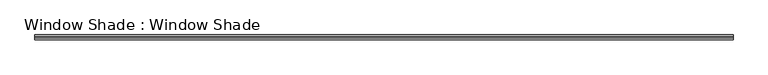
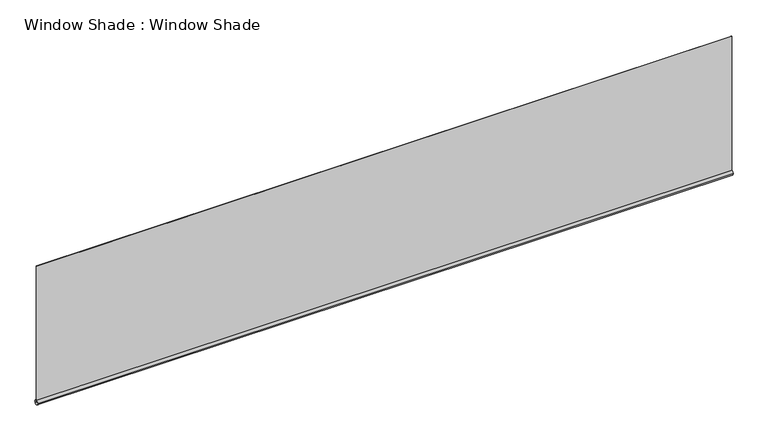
"""IFC4 building model written with IfcOpenShell, lengths in millimetres: furniture geometry, Window Shade : Window Shade."""

from ifc_helpers import new_model, si_unit, point, frame, frame_2d, origin, place, context, project, spatial, polyline, circle_curve, trimmed, segment, composite_curve, outline, extrude, source, transform, mapped, element, save


def window_shade_window_shade_ff6f2619(model_context):
    return source(origin(), model_context, "Body", "SweptSolid", [
        extrude(outline(polyline([(1865.8406718, 1.5875), (1865.8406718, -1.5875), (-1865.8406718, -1.5875), (-1865.8406718, 1.5875), (1865.8406718, 1.5875)])), frame((0.0, 0.0, 2884.7556011), z_axis=(0.0, 0.0, 1.0), x_axis=(1.0, 0.0, 0.0)), (0.0, 0.0, 1.0), 772.8443989),
        extrude(outline(composite_curve([segment(trimmed(circle_curve(frame_2d((0.0, 2884.7556011)), 12.7), [point((-12.7, 2884.7556011))], [point((12.7, 2884.7556011))], False, "CARTESIAN"), True, "CONTINUOUS"), segment(trimmed(circle_curve(frame_2d((0.0, 2884.7556011)), 12.7), [point((12.7, 2884.7556011))], [point((-12.7, 2884.7556011))], False, "CARTESIAN"), True, "CONTINUOUS")], self_intersect=False)), frame((-1865.8406718, 0.0, 0.0), z_axis=(1.0, 0.0, 0.0), x_axis=(0.0, 1.0, 0.0)), (0.0, 0.0, 1.0), 3731.6813435),
    ])


if __name__ == "__main__":
    model = new_model("IFC4")
    model_context = context("Model", 3, world=origin())
    ifc_project = project(units=[si_unit("LENGTHUNIT", "METRE", prefix="MILLI")], contexts=[model_context])
    site = spatial("IfcSite", under=ifc_project)
    building = spatial("IfcBuilding", under=site)
    placement = place(None, origin())
    window_shade_window_shade_shape = window_shade_window_shade_ff6f2619(model_context)
    element("IfcFurniture", 1, ObjectType="Window Shade : Window Shade", at=placement, inside=building, context=model_context, shape_type="MappedRepresentation", body=[
        mapped(window_shade_window_shade_shape, transform((0.0, 0.0, 0.0), x_axis=(1.0, 0.0, 0.0), y_axis=(0.0, 1.0, 0.0), z_axis=(0.0, 0.0, 1.0))),
    ])
    save(model, "model.ifc")
